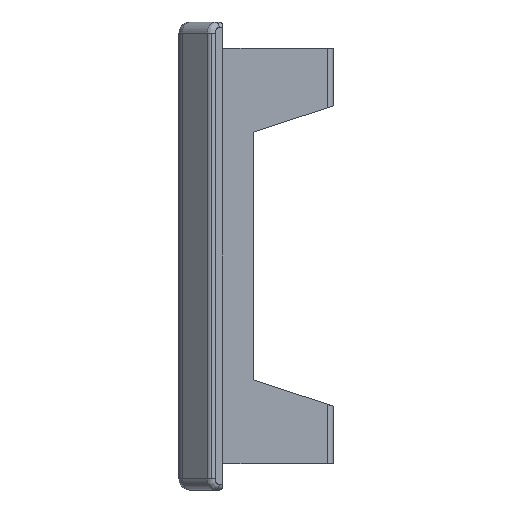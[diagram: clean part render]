
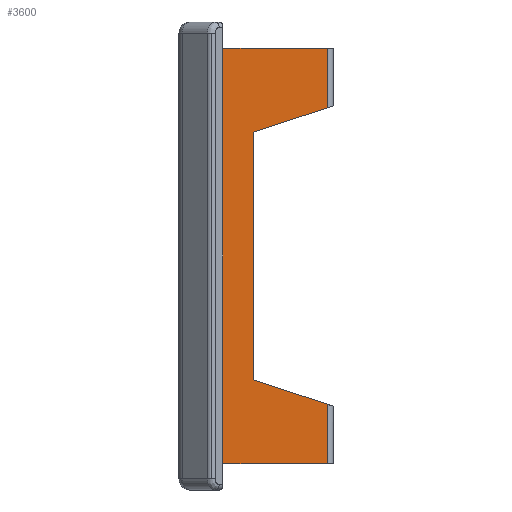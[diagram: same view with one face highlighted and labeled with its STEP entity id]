
A CAD part, left-side view. The second image highlights one B-rep face of the part: STEP entity #3600.
In plain terms, the highlighted planar face has unit normal (-1, 0, 0).
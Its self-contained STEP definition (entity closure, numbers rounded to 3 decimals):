
#152 = PLANE ( 'NONE',  #6211 ) ;
#159 = EDGE_CURVE ( 'NONE', #5542, #5398, #4861, .T. ) ;
#208 = VERTEX_POINT ( 'NONE', #3014 ) ;
#336 = VECTOR ( 'NONE', #6246, 1000. ) ;
#353 = EDGE_LOOP ( 'NONE', ( #3617, #876, #5449, #839, #7479, #3010, #3475, #5741 ) ) ;
#470 = CARTESIAN_POINT ( 'NONE',  ( -1., -24., 37.75 ) ) ;
#824 = DIRECTION ( 'NONE',  ( 0., -0.95, -0.311 ) ) ;
#839 = ORIENTED_EDGE ( 'NONE', *, *, #159, .F. ) ;
#876 = ORIENTED_EDGE ( 'NONE', *, *, #2448, .F. ) ;
#1253 = VECTOR ( 'NONE', #6266, 1000. ) ;
#1348 = CARTESIAN_POINT ( 'NONE',  ( -1., 1., -37.75 ) ) ;
#1749 = DIRECTION ( 'NONE',  ( 1., 0., 0. ) ) ;
#1900 = DIRECTION ( 'NONE',  ( 0., 0., -1. ) ) ;
#2000 = VERTEX_POINT ( 'NONE', #4566 ) ;
#2091 = CARTESIAN_POINT ( 'NONE',  ( -1., 1., 37.75 ) ) ;
#2123 = CARTESIAN_POINT ( 'NONE',  ( -1., -24., 37.75 ) ) ;
#2277 = VECTOR ( 'NONE', #824, 1000. ) ;
#2318 = LINE ( 'NONE', #470, #7088 ) ;
#2441 = EDGE_CURVE ( 'NONE', #2000, #5542, #4651, .T. ) ;
#2448 = EDGE_CURVE ( 'NONE', #5781, #5280, #4078, .T. ) ;
#2461 = CARTESIAN_POINT ( 'NONE',  ( -1., 1., 37.75 ) ) ;
#2802 = LINE ( 'NONE', #2091, #5746 ) ;
#3010 = ORIENTED_EDGE ( 'NONE', *, *, #3844, .F. ) ;
#3014 = CARTESIAN_POINT ( 'NONE',  ( -1., 0.5, 37.75 ) ) ;
#3029 = EDGE_CURVE ( 'NONE', #208, #3158, #2802, .T. ) ;
#3158 = VERTEX_POINT ( 'NONE', #5199 ) ;
#3238 = EDGE_CURVE ( 'NONE', #208, #5280, #3747, .T. ) ;
#3302 = DIRECTION ( 'NONE',  ( 0., -1., 0. ) ) ;
#3421 = CARTESIAN_POINT ( 'NONE',  ( -1., -10.5, -22.5 ) ) ;
#3475 = ORIENTED_EDGE ( 'NONE', *, *, #6215, .F. ) ;
#3600 = ADVANCED_FACE ( 'NONE', ( #6966 ), #152, .F. ) ;
#3617 = ORIENTED_EDGE ( 'NONE', *, *, #3238, .T. ) ;
#3712 = CARTESIAN_POINT ( 'NONE',  ( -1., 0.5, 37.75 ) ) ;
#3747 = LINE ( 'NONE', #3712, #5862 ) ;
#3777 = CARTESIAN_POINT ( 'NONE',  ( -1., -24., 26.922 ) ) ;
#3844 = EDGE_CURVE ( 'NONE', #6576, #2000, #6831, .T. ) ;
#4039 = CARTESIAN_POINT ( 'NONE',  ( -1., -24., 26.922 ) ) ;
#4078 = LINE ( 'NONE', #1348, #7080 ) ;
#4103 = EDGE_CURVE ( 'NONE', #5398, #5781, #2318, .T. ) ;
#4566 = CARTESIAN_POINT ( 'NONE',  ( -1., -10.5, 22.5 ) ) ;
#4648 = DIRECTION ( 'NONE',  ( 0., 0., -1. ) ) ;
#4651 = LINE ( 'NONE', #5257, #6115 ) ;
#4807 = DIRECTION ( 'NONE',  ( 0., 1., 0. ) ) ;
#4861 = LINE ( 'NONE', #7152, #2277 ) ;
#5199 = CARTESIAN_POINT ( 'NONE',  ( -1., -24., 37.75 ) ) ;
#5257 = CARTESIAN_POINT ( 'NONE',  ( -1., -10.5, 37.75 ) ) ;
#5280 = VERTEX_POINT ( 'NONE', #7404 ) ;
#5398 = VERTEX_POINT ( 'NONE', #6453 ) ;
#5449 = ORIENTED_EDGE ( 'NONE', *, *, #4103, .F. ) ;
#5542 = VERTEX_POINT ( 'NONE', #3421 ) ;
#5741 = ORIENTED_EDGE ( 'NONE', *, *, #3029, .F. ) ;
#5746 = VECTOR ( 'NONE', #3302, 1000. ) ;
#5781 = VERTEX_POINT ( 'NONE', #7343 ) ;
#5862 = VECTOR ( 'NONE', #1900, 1000. ) ;
#5900 = DIRECTION ( 'NONE',  ( 0., 0., -1. ) ) ;
#6115 = VECTOR ( 'NONE', #5900, 1000. ) ;
#6211 = AXIS2_PLACEMENT_3D ( 'NONE', #2461, #1749, #7084 ) ;
#6215 = EDGE_CURVE ( 'NONE', #3158, #6576, #7306, .T. ) ;
#6246 = DIRECTION ( 'NONE',  ( 0., 0., -1. ) ) ;
#6266 = DIRECTION ( 'NONE',  ( 0., 0.95, -0.311 ) ) ;
#6453 = CARTESIAN_POINT ( 'NONE',  ( -1., -24., -26.922 ) ) ;
#6576 = VERTEX_POINT ( 'NONE', #3777 ) ;
#6831 = LINE ( 'NONE', #4039, #1253 ) ;
#6966 = FACE_OUTER_BOUND ( 'NONE', #353, .T. ) ;
#7080 = VECTOR ( 'NONE', #4807, 1000. ) ;
#7084 = DIRECTION ( 'NONE',  ( 0., 1., 0. ) ) ;
#7088 = VECTOR ( 'NONE', #4648, 1000. ) ;
#7152 = CARTESIAN_POINT ( 'NONE',  ( -1., -10.5, -22.5 ) ) ;
#7306 = LINE ( 'NONE', #2123, #336 ) ;
#7343 = CARTESIAN_POINT ( 'NONE',  ( -1., -24., -37.75 ) ) ;
#7404 = CARTESIAN_POINT ( 'NONE',  ( -1., 0.5, -37.75 ) ) ;
#7479 = ORIENTED_EDGE ( 'NONE', *, *, #2441, .F. ) ;
